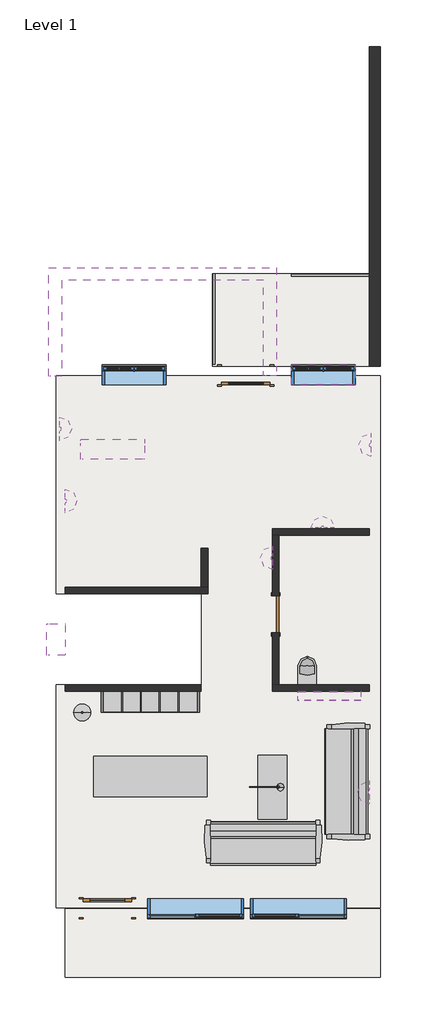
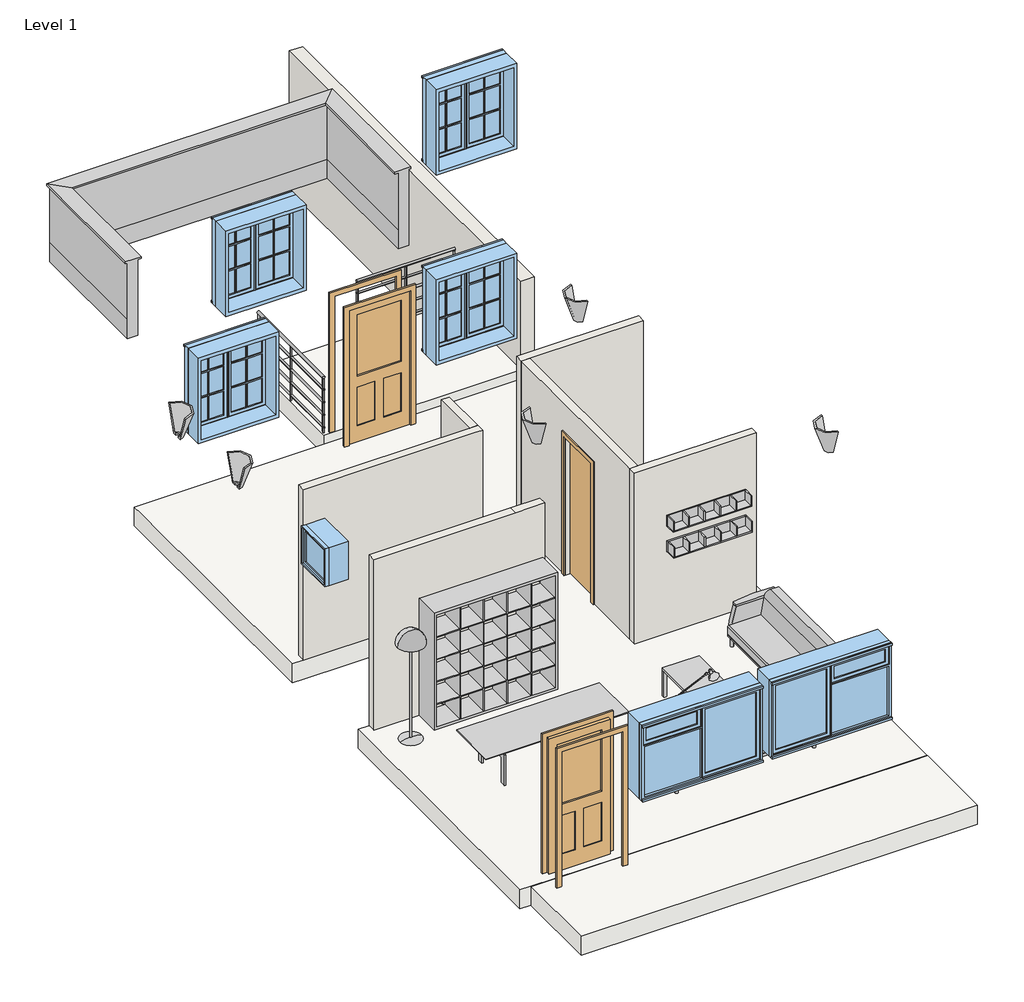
# One storey, incomplete: 8 light fixtures, 7 furniture elements, 7 walls, 7 windows, 3 doors, 3 slabs, 2 railings, 1 flow terminal, 1 proxy.
"""IFC4 building model written with IfcOpenShell, lengths in millimetres."""

from ifc_helpers import new_model, si_unit, frame, origin, origin_with_axes, place, context, project, spatial, polyline, outline, extrude, faceted_brep, transform, mapped, element, save
from components import m_single_decorative_1_0914_x_2134mm_a31491ec, standard_door_sd_700x2200_29d45fe6, flow_terminal_530_x_350mm_1a9316c8, furniture_920b33d8, furniture_7eedec44, furniture_45a1625c, furniture_0762_x_2134mm_3327233b, furniture_2134mm_67ee6dc0, furniture_2134mm_7fff81ef, lack_120x55cm_a48caeea, light_fixture_bd9db648, light_fixture_16639799, light_fixture_4844b612, light_fixture_da5f3668, light_fixture_c75c11d5, light_fixture_c6ae0c23, railing_900mm_pipe_2_fe6058d7, railing_900mm_pipe_2_0036318b, m_case_doubleall_bar_1200_x_1350mm_d246b42b, m_casement_with_vent_3_1800_x_1200mm_3cd8aec8, m_casement_with_vent_3_1800_x_1200mm_82a41733, m_fixed1_600_x_600mm_7c1dbeb3

model = new_model("IFC4")

# Units and contexts
model_context = context("Model", 3, world=origin())
ifc_project = project(units=[si_unit("LENGTHUNIT", "METRE", prefix="MILLI")], contexts=[model_context])

# Site, building, storey
site = spatial("IfcSite", under=ifc_project)
building = spatial("IfcBuilding", under=site)
storey = spatial("IfcBuildingStorey", under=building, Name="Level 1", Elevation=0.0)

# Proxy
placement = place(None, origin())
element("IfcBuildingElementProxy", 1, Name="Parapetto", ObjectType="Parapetto", at=placement, inside=storey, context=model_context, shape_type="Brep", body=[
    faceted_brep([(-4001.8266822, 4391.7328473, 2700.0), (-3841.8266822, 4391.7328473, 2700.0), (-3841.8266822, 4391.7328473, 3000.0), (-3841.8266822, 4391.7328473, 3900.0), (-3811.8266822, 4391.7328473, 3900.0), (-3811.8266822, 4391.7328473, 3930.0), (-4051.8266822, 4391.7328473, 3930.0), (-4051.8266822, 4391.7328473, 3900.0), (-4001.8266822, 4391.7328473, 3900.0), (-4001.8266822, 4391.7328473, 3000.0), (-4001.8266822, 6234.7328473, 2700.0), (-3841.8266822, 6394.7328473, 2700.0), (-3841.8266822, 4573.2328473, 2700.0), (-3841.8266822, 6394.7328473, 3000.0), (-3841.8266822, 6394.7328473, 3900.0), (-3841.8266822, 4573.2328473, 3900.0), (-3811.8266822, 6424.7328473, 3900.0), (-3811.8266822, 4573.2328473, 3900.0), (-3811.8266822, 6424.7328473, 3930.0), (-3811.8266822, 4573.2328473, 3930.0), (-4051.8266822, 6184.7328473, 3930.0), (-4051.8266822, 4573.2328473, 3930.0), (-4051.8266822, 6184.7328473, 3900.0), (-4051.8266822, 4573.2328473, 3900.0), (-4001.8266822, 6234.7328473, 3900.0), (-4001.8266822, 4573.2328473, 3900.0), (-4001.8266822, 6234.7328473, 3000.0), (-7898.3266822, 6234.7328473, 2700.0), (-8058.3266822, 6394.7328473, 2700.0), (-8058.3266822, 6394.7328473, 3000.0), (-8058.3266822, 6394.7328473, 3900.0), (-8088.3266822, 6424.7328473, 3900.0), (-8088.3266822, 6424.7328473, 3930.0), (-7848.3266822, 6184.7328473, 3930.0), (-7848.3266822, 6184.7328473, 3900.0), (-7898.3266822, 6234.7328473, 3900.0), (-7898.3266822, 6234.7328473, 3000.0), (-7898.3266822, 4384.7328473, 2700.0), (-7898.3266822, 4384.7328473, 3000.0), (-7898.3266822, 4384.7328473, 3900.0), (-7848.3266822, 4384.7328473, 3900.0), (-7848.3266822, 4384.7328473, 3930.0), (-8088.3266822, 4384.7328473, 3930.0), (-8088.3266822, 4384.7328473, 3900.0), (-8058.3266822, 4384.7328473, 3900.0), (-8058.3266822, 4384.7328473, 3000.0), (-8058.3266822, 4384.7328473, 2700.0)], [[[0, 1, 2, 3, 4, 5, 6, 7, 8, 9]], [[1, 0, 10, 11, 12]], [[2, 1, 12, 11, 13]], [[3, 2, 13, 14, 15]], [[4, 3, 15, 14, 16, 17]], [[5, 4, 17, 16, 18, 19]], [[6, 5, 19, 18, 20, 21]], [[7, 6, 21, 20, 22, 23]], [[8, 7, 23, 22, 24, 25]], [[9, 8, 25, 24, 26]], [[0, 9, 26, 10]], [[11, 10, 27, 28]], [[13, 11, 28, 29]], [[14, 13, 29, 30]], [[16, 14, 30, 31]], [[18, 16, 31, 32]], [[20, 18, 32, 33]], [[22, 20, 33, 34]], [[24, 22, 34, 35]], [[26, 24, 35, 36]], [[10, 26, 36, 27]], [[37, 38, 39, 40, 41, 42, 43, 44, 45, 46]], [[28, 27, 37, 46]], [[29, 28, 46, 45]], [[30, 29, 45, 44]], [[31, 30, 44, 43]], [[32, 31, 43, 42]], [[33, 32, 42, 41]], [[34, 33, 41, 40]], [[35, 34, 40, 39]], [[36, 35, 39, 38]], [[27, 36, 38, 37]]]),
])

# Doors
m_single_decorative_1_0914_x_2134mm_shape = m_single_decorative_1_0914_x_2134mm_a31491ec(model_context)
element("IfcDoor", 2, ObjectType="M_Single-Decorative 1 : 0914 x 2134mm", at=placement, inside=storey, context=model_context, shape_type="MappedRepresentation", body=[
    mapped(m_single_decorative_1_0914_x_2134mm_shape, transform((-6986.8266822, -5601.7671527, 0.0), x_axis=(-1.0, 0.0, 0.0), y_axis=(0.0, -1.0, 0.0), z_axis=(0.0, 0.0, 1.0))),
])
element("IfcDoor", 3, ObjectType="M_Single-Decorative 1 : 0914 x 2134mm", at=placement, inside=storey, context=model_context, shape_type="MappedRepresentation", body=[
    mapped(m_single_decorative_1_0914_x_2134mm_shape, transform((-4386.8266822, 4398.2328473, 0.0), x_axis=(1.0, 0.0, 0.0), y_axis=(0.0, 1.0, 0.0), z_axis=(0.0, 0.0, 1.0))),
])
standard_door_sd_700x2200_shape = standard_door_sd_700x2200_29d45fe6(model_context)
element("IfcDoor", 4, ObjectType="Standard Door : SD 700x2200", at=placement, inside=storey, context=model_context, shape_type="MappedRepresentation", body=[
    mapped(standard_door_sd_700x2200_shape, transform((-3824.3266822, -84.3406402, 0.0), x_axis=(0.0, -1.0, 0.0), y_axis=(1.0, 0.0, 0.0), z_axis=(0.0, 0.0, 1.0))),
])

# Flow terminal
flow_terminal_530_x_350mm_shape = flow_terminal_530_x_350mm_1a9316c8(model_context)
element("IfcFlowTerminal", 5, ObjectType="M_WC Seat with no Support_6 : 530 x 350mm", at=placement, inside=storey, context=model_context, shape_type="MappedRepresentation", body=[
    mapped(flow_terminal_530_x_350mm_shape, transform((-3231.7769186, -1401.8406402, 0.0), x_axis=(-1.0, 0.0, 0.0), y_axis=(0.0, -1.0, 0.0), z_axis=(0.0, 0.0, 1.0))),
])

# Furniture
furniture_shape = furniture_920b33d8(model_context)
element("IfcFurniture", 6, ObjectType="Benno mensola IKEA : Benno Mensola", at=placement, inside=storey, context=model_context, shape_type="MappedRepresentation", body=[
    mapped(furniture_shape, transform((-2836.6069087, -1464.3406402, -400.0), x_axis=(-1.0, 0.0, 0.0), y_axis=(0.0, -1.0, 0.0), z_axis=(0.0, 0.0, 1.0))),
])
furniture_2_shape = furniture_7eedec44(model_context)
element("IfcFurniture", 7, ObjectType="Benno mensola IKEA : Benno Mensola", at=placement, inside=storey, context=model_context, shape_type="MappedRepresentation", body=[
    mapped(furniture_2_shape, transform((-2836.6069087, -1464.3406402, 0.0), x_axis=(-1.0, 0.0, 0.0), y_axis=(0.0, -1.0, 0.0), z_axis=(0.0, 0.0, 1.0))),
])
furniture_3_shape = furniture_45a1625c(model_context)
element("IfcFurniture", 8, ObjectType="Expedit libreria IKEA : Expedit Libreria 185x185x39", at=placement, inside=storey, context=model_context, shape_type="MappedRepresentation", body=[
    mapped(furniture_3_shape, transform((-5936.2729468, -1653.1589206, 0.0), x_axis=(-1.0000000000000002, 0.0, 0.0), y_axis=(0.0, -1.0000000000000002, 0.0), z_axis=(0.0, 0.0, 1.0))),
])
furniture_0762_x_2134mm_shape = furniture_0762_x_2134mm_3327233b(model_context)
element("IfcFurniture", 9, ObjectType="M_Tavolo-Pranzo : 0762 x 2134mm", at=placement, inside=storey, context=model_context, shape_type="MappedRepresentation", body=[
    mapped(furniture_0762_x_2134mm_shape, transform((-6201.5924488, -3222.051718, 0.0), x_axis=(1.0, 0.0, 0.0), y_axis=(0.0, 1.0, 0.0), z_axis=(0.0, 0.0, 1.0))),
])
furniture_2134mm_shape = furniture_2134mm_67ee6dc0(model_context)
element("IfcFurniture", 10, ObjectType="M_Poltrona-Pensi : 2134mm", at=placement, inside=storey, context=model_context, shape_type="MappedRepresentation", body=[
    mapped(furniture_2134mm_shape, transform((-4340.4329322, -4649.7308041, 0.0), x_axis=(1.0, 0.0, 0.0), y_axis=(0.0, 1.0, 0.0), z_axis=(0.0, 0.0, 1.0))),
])
furniture_2134mm_2_shape = furniture_2134mm_7fff81ef(model_context)
element("IfcFurniture", 11, ObjectType="M_Poltrona-Pensi : 2134mm", at=placement, inside=storey, context=model_context, shape_type="MappedRepresentation", body=[
    mapped(furniture_2134mm_2_shape, transform((-2760.4365182, -3505.4468902, 0.0), x_axis=(0.0, 1.0, 0.0), y_axis=(-1.0, 0.0, 0.0), z_axis=(0.0, 0.0, 1.0))),
])
lack_120x55cm_shape = lack_120x55cm_a48caeea(model_context)
element("IfcFurniture", 12, ObjectType="Lack Tavolino IKEA : Lack 120x55cm", at=placement, inside=storey, context=model_context, shape_type="MappedRepresentation", body=[
    mapped(lack_120x55cm_shape, transform((-3537.7285634, -2966.216477, 0.0), x_axis=(1.0, 0.0, 0.0), y_axis=(0.0, 1.0, 0.0), z_axis=(0.0, 0.0, 1.0))),
])

# Light fixtures
light_fixture_shape = light_fixture_bd9db648(model_context)
element("IfcLightFixture", 13, ObjectType="M_Lamapada da pavimento - Semisferica : 100 watt Incandescente", at=placement, inside=storey, context=model_context, shape_type="MappedRepresentation", body=[
    mapped(light_fixture_shape, transform((-7461.8266822, -1926.8406402, 0.0), x_axis=(1.0, 0.0, 0.0), y_axis=(0.0, 1.0, 0.0), z_axis=(0.0, 0.0, 1.0))),
])
light_fixture_2_shape = light_fixture_16639799(model_context)
element("IfcLightFixture", 14, ObjectType="M_Applique : 100 watt Incandescente", at=placement, inside=storey, context=model_context, shape_type="MappedRepresentation", body=[
    mapped(light_fixture_2_shape, transform((-2940.6210153, 1460.6593598, 0.0), x_axis=(1.0, 0.0, 0.0), y_axis=(0.0, 1.0, 0.0), z_axis=(0.0, 0.0, 1.0))),
])
element("IfcLightFixture", 15, ObjectType="M_Applique : 100 watt Incandescente", at=placement, inside=storey, context=model_context, shape_type="MappedRepresentation", body=[
    mapped(light_fixture_2_shape, transform((-7958.3266822, 3398.5271804, 0.0), x_axis=(0.0, -1.0, 0.0), y_axis=(1.0, 0.0, 0.0), z_axis=(0.0, 0.0, 1.0))),
])
element("IfcLightFixture", 16, ObjectType="M_Applique : 100 watt Incandescente", at=placement, inside=storey, context=model_context, shape_type="MappedRepresentation", body=[
    mapped(light_fixture_2_shape, transform((-1961.8266822, 3098.5271804, 0.0), x_axis=(0.0, 1.0, 0.0), y_axis=(-1.0, 0.0, 0.0), z_axis=(0.0, 0.0, 1.0))),
])
light_fixture_3_shape = light_fixture_4844b612(model_context)
element("IfcLightFixture", 17, ObjectType="M_Lampada da tavolo Luxo : 100 watt Incandescente", at=placement, inside=storey, context=model_context, shape_type="MappedRepresentation", body=[
    mapped(light_fixture_3_shape, transform((-3990.4266822, -3326.8406402, 0.0), x_axis=(1.0, 0.0, 0.0), y_axis=(0.0, 1.0, 0.0), z_axis=(0.0, 0.0, 1.0))),
])
light_fixture_4_shape = light_fixture_da5f3668(model_context)
element("IfcLightFixture", 18, ObjectType="M_Applique : 100 watt Incandescente", at=placement, inside=storey, context=model_context, shape_type="MappedRepresentation", body=[
    mapped(light_fixture_4_shape, transform((-1961.8266822, -3426.8406402, 1900.0), x_axis=(0.0, 1.0, 0.0), y_axis=(-1.0, 0.0, 0.0), z_axis=(0.0, 0.0, 1.0))),
])
light_fixture_5_shape = light_fixture_c75c11d5(model_context)
element("IfcLightFixture", 19, ObjectType="M_Applique : 100 watt Incandescente", at=placement, inside=storey, context=model_context, shape_type="MappedRepresentation", body=[
    mapped(light_fixture_5_shape, transform((-3824.3266822, 976.9536929, 0.0), x_axis=(0.0, 1.0, 0.0), y_axis=(-1.0, 0.0, 0.0), z_axis=(0.0, 0.0, 1.0))),
])
light_fixture_6_shape = light_fixture_c6ae0c23(model_context)
element("IfcLightFixture", 20, ObjectType="M_Applique : 100 watt Incandescente", at=placement, inside=storey, context=model_context, shape_type="MappedRepresentation", body=[
    mapped(light_fixture_6_shape, transform((-7958.3266822, 2044.3650267, 0.0), x_axis=(0.0, -1.0, 0.0), y_axis=(1.0, 0.0, 0.0), z_axis=(0.0, 0.0, 1.0))),
])

# Railings
railing_900mm_pipe_2_shape = railing_900mm_pipe_2_fe6058d7(model_context)
element("IfcRailing", 21, ObjectType="900mm Pipe 2", at=placement, inside=storey, context=model_context, shape_type="MappedRepresentation", body=[
    mapped(railing_900mm_pipe_2_shape, transform((0.0, 0.0, 0.0), x_axis=(1.0, 0.0, 0.0), y_axis=(0.0, 1.0, 0.0), z_axis=(0.0, 0.0, 1.0))),
])
railing_900mm_pipe_2_2_shape = railing_900mm_pipe_2_0036318b(model_context)
element("IfcRailing", 22, ObjectType="900mm Pipe 2", at=placement, inside=storey, context=model_context, shape_type="MappedRepresentation", body=[
    mapped(railing_900mm_pipe_2_2_shape, transform((0.0, 0.0, 0.0), x_axis=(1.0, 0.0, 0.0), y_axis=(0.0, 1.0, 0.0), z_axis=(0.0, 0.0, 1.0))),
])

# Slabs
element("IfcSlab", 23, ObjectType="Domestic Slab", at=placement, inside=storey, context=model_context, shape_type="Brep", body=[
    faceted_brep([(-7948.3266822, 298.1593598, -300.0), (-7948.3266822, 4223.2328473, -300.0), (-7948.3266822, 4391.7328473, -300.0), (-2061.8266822, 4391.7328473, -300.0), (-1861.8266822, 4391.7328473, -300.0), (-1861.8266822, -5595.2671527, -300.0), (-2061.8266822, -5595.2671527, -300.0), (-7783.3266822, -5595.2671527, -300.0), (-7948.3266822, -5595.2671527, -300.0), (-7948.3266822, -1401.8406402, -300.0), (-7783.3266822, -1401.8406402, -300.0), (-5223.3266822, -1401.8406402, -300.0), (-5223.3266822, 298.1593598, -300.0), (-7783.3266822, 298.1593598, -300.0), (-7948.3266822, 298.1593598, 0.0), (-7783.3266822, 298.1593598, 0.0), (-5223.3266822, 298.1593598, 0.0), (-5223.3266822, -1401.8406402, 0.0), (-7783.3266822, -1401.8406402, 0.0), (-7948.3266822, -1401.8406402, 0.0), (-7948.3266822, -5595.2671527, 0.0), (-7783.3266822, -5595.2671527, 0.0), (-7443.8266822, -5595.2671527, 0.0), (-6529.8266822, -5595.2671527, 0.0), (-2061.8266822, -5595.2671527, 0.0), (-1861.8266822, -5595.2671527, 0.0), (-1861.8266822, 4391.7328473, 0.0), (-2061.8266822, 4391.7328473, 0.0), (-3929.8266822, 4391.7328473, 0.0), (-4843.8266822, 4391.7328473, 0.0), (-7948.3266822, 4391.7328473, 0.0), (-7948.3266822, 4223.2328473, 0.0)], [[[0, 1, 2, 3, 4, 5, 6, 7, 8, 9, 10, 11, 12, 13]], [[14, 15, 16, 17, 18, 19, 20, 21, 22, 23, 24, 25, 26, 27, 28, 29, 30, 31]], [[2, 1, 0, 14, 31, 30]], [[4, 3, 2, 30, 29, 28, 27, 26]], [[5, 4, 26, 25]], [[8, 7, 6, 5, 25, 24, 23, 22, 21, 20]], [[9, 8, 20, 19]], [[11, 10, 9, 19, 18, 17]], [[12, 11, 17, 16]], [[0, 13, 12, 16, 15, 14]]]),
])
element("IfcSlab", 24, ObjectType="Domestic Slab", at=placement, inside=storey, context=model_context, shape_type="Brep", body=[
    faceted_brep([(-1858.3266822, -6901.7671527, -300.0), (-1861.8266822, -6901.7671527, -300.0), (-2061.8266822, -6901.7671527, -300.0), (-7783.3266822, -6901.7671527, -300.0), (-7783.3266822, -5610.7671527, -300.0), (-2061.8266822, -5610.7671527, -300.0), (-1861.8266822, -5610.7671527, -300.0), (-1858.3266822, -5610.7671527, -300.0), (-1858.3266822, -6901.7671527, 0.0), (-1858.3266822, -5610.7671527, 0.0), (-1861.8266822, -5610.7671527, 0.0), (-2061.8266822, -5610.7671527, 0.0), (-7783.3266822, -5610.7671527, 0.0), (-7783.3266822, -6901.7671527, 0.0), (-2061.8266822, -6901.7671527, 0.0), (-1861.8266822, -6901.7671527, 0.0)], [[[0, 1, 2, 3, 4, 5, 6, 7]], [[8, 9, 10, 11, 12, 13, 14, 15]], [[3, 2, 1, 0, 8, 15, 14, 13]], [[4, 3, 13, 12]], [[7, 6, 5, 4, 12, 11, 10, 9]], [[0, 7, 9, 8]]]),
])
element("IfcSlab", 25, ObjectType="Generic 300mm", at=placement, inside=storey, context=model_context, shape_type="SweptSolid", body=[
    extrude(outline(polyline([(-2061.8266822, 6313.2328473), (-2061.8266822, 4573.2328473), (-5011.8266822, 4573.2328473), (-5011.8266822, 6313.2328473), (-2061.8266822, 6313.2328473)])), frame((0.0, 0.0, -300.0), z_axis=(0.0, 0.0, 1.0), x_axis=(1.0, 0.0, 0.0)), (0.0, 0.0, 1.0), 300.0),
])

# Walls
element("IfcWall", 26, ObjectType="Generic - 200mm", at=placement, inside=storey, context=model_context, shape_type="SweptSolid", body=[
    extrude(outline(polyline([(4573.2328473, -800.0), (4573.2328473, 1400.0), (10576.7328473, 1400.0), (10576.7328473, 0.0), (10573.2328473, 0.0), (10573.2328473, -800.0), (4573.2328473, -800.0)])), frame((-2061.8266822, 0.0, 0.0), z_axis=(1.0, 0.0, 0.0), x_axis=(0.0, 1.0, 0.0)), (0.0, 0.0, 1.0), 200.0),
])
element("IfcWall", 27, ObjectType="Interior wall", at=placement, inside=storey, context=model_context, shape_type="SweptSolid", body=[
    extrude(outline(polyline([(0.0, -7783.3266822), (0.0, -5226.8266822), (2700.0, -5226.8266822), (2700.0, -5661.8266822), (2700.0, -7783.3266822), (0.0, -7783.3266822)])), frame((0.0, -1526.8406402, 0.0), z_axis=(0.0, 1.0, 0.0), x_axis=(0.0, 0.0, 1.0)), (0.0, 0.0, 1.0), 125.0),
])
element("IfcWall", 28, ObjectType="Interior wall", at=placement, inside=storey, context=model_context, shape_type="Brep", body=[
    faceted_brep([(-5101.8266822, 423.1593598, 0.0), (-5226.8266822, 423.1593598, 0.0), (-7783.3266822, 423.1593598, 0.0), (-7783.3266822, 423.1593598, 2700.0), (-5226.8266822, 423.1593598, 2700.0), (-5101.8266822, 423.1593598, 2700.0), (-5101.8266822, 298.1593598, 0.0), (-5101.8266822, 298.1593598, 2700.0), (-5226.8266822, 298.1593598, 2700.0), (-7783.3266822, 298.1593598, 2700.0), (-7783.3266822, 298.1593598, 0.0)], [[[0, 1, 2, 3, 4, 5]], [[6, 7, 8, 9, 10]], [[2, 1, 0, 6, 10]], [[0, 5, 7, 6]], [[3, 2, 10, 9]], [[5, 4, 3, 9, 8, 7]]]),
])
element("IfcWall", 29, ObjectType="Interior wall", at=placement, inside=storey, context=model_context, shape_type="SweptSolid", body=[
    extrude(outline(polyline([(-5101.8266822, 1160.6593598), (-5101.8266822, 423.1593598), (-5226.8266822, 423.1593598), (-5226.8266822, 1160.6593598), (-5101.8266822, 1160.6593598)])), origin_with_axes(), (0.0, 0.0, 1.0), 2700.0),
])
element("IfcWall", 30, ObjectType="Interior wall", at=placement, inside=storey, context=model_context, shape_type="Brep", body=[
    faceted_brep([(-2061.8266822, -1401.8406402, 0.0), (-3761.8266822, -1401.8406402, 0.0), (-3886.8266822, -1401.8406402, 0.0), (-3886.8266822, -1401.8406402, 2700.0), (-3761.8266822, -1401.8406402, 2700.0), (-2061.8266822, -1401.8406402, 2700.0), (-2061.8266822, -1526.8406402, 0.0), (-2061.8266822, -1526.8406402, 2700.0), (-3886.8266822, -1526.8406402, 2700.0), (-3886.8266822, -1526.8406402, 0.0)], [[[0, 1, 2, 3, 4, 5]], [[6, 7, 8, 9]], [[2, 1, 0, 6, 9]], [[3, 2, 9, 8]], [[0, 5, 7, 6]], [[5, 4, 3, 8, 7]]]),
])
element("IfcWall", 31, ObjectType="Interior wall", at=placement, inside=storey, context=model_context, shape_type="Brep", body=[
    faceted_brep([(-3886.8266822, 1398.1593598, 0.0), (-3761.8266822, 1398.1593598, 0.0), (-2061.8266822, 1398.1593598, 0.0), (-2061.8266822, 1398.1593598, 2700.0), (-3761.8266822, 1398.1593598, 2700.0), (-3886.8266822, 1398.1593598, 2700.0), (-3886.8266822, 1523.1593598, 0.0), (-3886.8266822, 1523.1593598, 2700.0), (-2061.8266822, 1523.1593598, 2700.0), (-2061.8266822, 1523.1593598, 0.0)], [[[0, 1, 2, 3, 4, 5]], [[6, 7, 8, 9]], [[2, 1, 0, 6, 9]], [[0, 5, 7, 6]], [[3, 2, 9, 8]], [[5, 4, 3, 8, 7]]]),
])
element("IfcWall", 32, ObjectType="Interior wall", at=placement, inside=storey, context=model_context, shape_type="Brep", body=[
    faceted_brep([(-3886.8266822, -1401.8406402, 0.0), (-3886.8266822, -434.3406402, 0.0), (-3761.8266822, -434.3406402, 0.0), (-3761.8266822, -1401.8406402, 0.0), (-3886.8266822, 265.6593598, 0.0), (-3886.8266822, 1398.1593598, 0.0), (-3761.8266822, 1398.1593598, 0.0), (-3761.8266822, 265.6593598, 0.0), (-3761.8266822, -434.3406402, 2200.0), (-3761.8266822, 265.6593598, 2200.0), (-3761.8266822, 1398.1593598, 2700.0), (-3761.8266822, -1401.8406402, 2700.0), (-3886.8266822, -434.3406402, 2200.0), (-3886.8266822, -1401.8406402, 2700.0), (-3886.8266822, -601.8406402, 2700.0), (-3886.8266822, 1398.1593598, 2700.0), (-3886.8266822, 265.6593598, 2200.0)], [[[0, 1, 2, 3]], [[4, 5, 6, 7]], [[3, 2, 8, 9, 7, 6, 10, 11]], [[12, 1, 0, 13, 14, 15, 5, 4, 16]], [[3, 11, 13, 0]], [[10, 6, 5, 15]], [[11, 10, 15, 14, 13]], [[8, 2, 1, 12]], [[9, 8, 12, 16]], [[7, 9, 16, 4]]]),
])

# Windows
m_case_doubleall_bar_1200_x_1350mm_shape = m_case_doubleall_bar_1200_x_1350mm_d246b42b(model_context)
element("IfcWindow", 33, ObjectType="M_Case DoubleAll Bar : 1200 x 1350mm", at=placement, inside=storey, context=model_context, shape_type="MappedRepresentation", body=[
    mapped(m_case_doubleall_bar_1200_x_1350mm_shape, transform((-2929.3266822, 4443.2601532, -115.0), x_axis=(1.0, 0.0, 0.0), y_axis=(0.0, 1.0, 0.0), z_axis=(0.0, 0.0, 1.0))),
])
element("IfcWindow", 34, ObjectType="M_Case DoubleAll Bar : 1200 x 1350mm", at=placement, inside=storey, context=model_context, shape_type="MappedRepresentation", body=[
    mapped(m_case_doubleall_bar_1200_x_1350mm_shape, transform((-6486.8266822, 4443.2601532, -115.0), x_axis=(1.0, 0.0, 0.0), y_axis=(0.0, 1.0, 0.0), z_axis=(0.0, 0.0, 1.0))),
])
element("IfcWindow", 35, ObjectType="M_Case DoubleAll Bar : 1200 x 1350mm", at=placement, inside=storey, context=model_context, shape_type="MappedRepresentation", body=[
    mapped(m_case_doubleall_bar_1200_x_1350mm_shape, transform((-2929.3266822, 4443.2601532, 2885.0), x_axis=(1.0, 0.0, 0.0), y_axis=(0.0, 1.0, 0.0), z_axis=(0.0, 0.0, 1.0))),
])
element("IfcWindow", 36, ObjectType="M_Case DoubleAll Bar : 1200 x 1350mm", at=placement, inside=storey, context=model_context, shape_type="MappedRepresentation", body=[
    mapped(m_case_doubleall_bar_1200_x_1350mm_shape, transform((-6886.8266822, 3043.2601532, 2885.0), x_axis=(1.0, 0.0, 0.0), y_axis=(0.0, 1.0, 0.0), z_axis=(0.0, 0.0, 1.0))),
])
m_casement_with_vent_3_1800_x_1200mm_shape = m_casement_with_vent_3_1800_x_1200mm_3cd8aec8(model_context)
element("IfcWindow", 37, ObjectType="M_Casement with Vent 3 : 1800 x 1200mm", at=placement, inside=storey, context=model_context, shape_type="MappedRepresentation", body=[
    mapped(m_casement_with_vent_3_1800_x_1200mm_shape, transform((-5329.8266822, -5601.7671527, 0.0), x_axis=(1.0, 0.0, 0.0), y_axis=(0.0, 1.0, 0.0), z_axis=(0.0, 0.0, 1.0))),
])
m_casement_with_vent_3_1800_x_1200mm_2_shape = m_casement_with_vent_3_1800_x_1200mm_82a41733(model_context)
element("IfcWindow", 38, ObjectType="M_Casement with Vent 3 : 1800 x 1200mm", at=placement, inside=storey, context=model_context, shape_type="MappedRepresentation", body=[
    mapped(m_casement_with_vent_3_1800_x_1200mm_2_shape, transform((-3395.8266822, -5601.7671527, 0.0), x_axis=(-1.0, 0.0, 0.0), y_axis=(0.0, -1.0, 0.0), z_axis=(0.0, 0.0, 1.0))),
])
m_fixed1_600_x_600mm_shape = m_fixed1_600_x_600mm_7c1dbeb3(model_context)
element("IfcWindow", 39, ObjectType="M_Fixed1 : 600 x 600mm", at=placement, inside=storey, context=model_context, shape_type="MappedRepresentation", body=[
    mapped(m_fixed1_600_x_600mm_shape, transform((-7945.3266822, -556.8406402, 1083.8025508), x_axis=(0.0, 1.0, 0.0), y_axis=(-1.0, 0.0, 0.0), z_axis=(0.0, 0.0, 1.0))),
])

save(model, "model.ifc")
